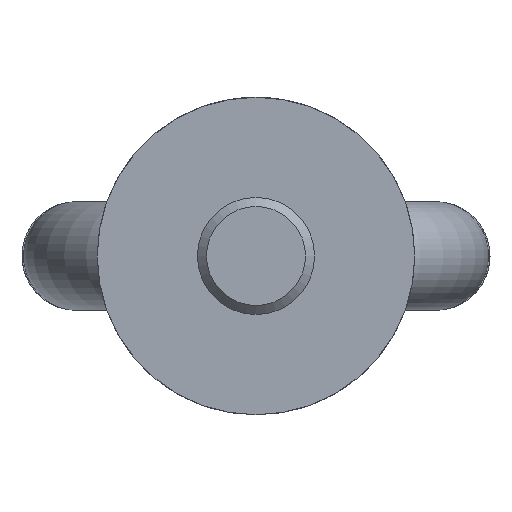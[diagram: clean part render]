
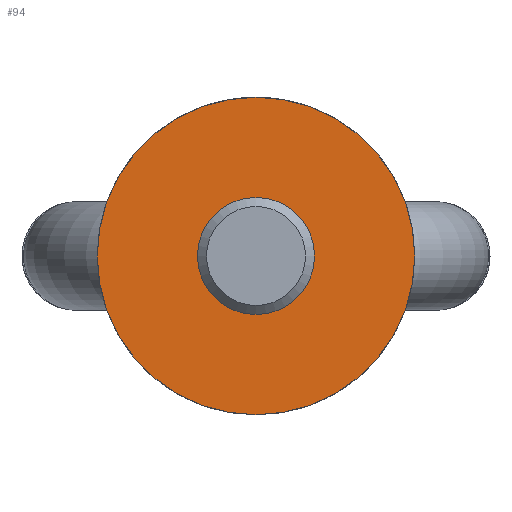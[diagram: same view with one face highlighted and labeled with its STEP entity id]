
A CAD part, front view. The second image highlights one B-rep face of the part: STEP entity #94.
In plain terms, the highlighted planar face has unit normal (0, -1, 0).
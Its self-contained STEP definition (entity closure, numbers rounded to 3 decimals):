
#94 = ADVANCED_FACE( '', ( #151, #152 ), #153, .F. );
#151 = FACE_BOUND( '', #219, .T. );
#152 = FACE_OUTER_BOUND( '', #220, .T. );
#153 = PLANE( '', #221 );
#219 = EDGE_LOOP( '', ( #373 ) );
#220 = EDGE_LOOP( '', ( #374 ) );
#221 = AXIS2_PLACEMENT_3D( '', #375, #376, #377 );
#373 = ORIENTED_EDGE( '', *, *, #456, .T. );
#374 = ORIENTED_EDGE( '', *, *, #438, .T. );
#375 = CARTESIAN_POINT( '', ( 19., 0., 0. ) );
#376 = DIRECTION( '', ( 0., 1., 0. ) );
#377 = DIRECTION( '', ( 0., 0., 1. ) );
#438 = EDGE_CURVE( '', #504, #504, #505, .T. );
#456 = EDGE_CURVE( '', #532, #532, #533, .T. );
#504 = VERTEX_POINT( '', #920 );
#505 = CIRCLE( '', #921, 19. );
#532 = VERTEX_POINT( '', #966 );
#533 = CIRCLE( '', #967, 7. );
#920 = CARTESIAN_POINT( '', ( 0., 0., -19. ) );
#921 = AXIS2_PLACEMENT_3D( '', #1012, #1013, #1014 );
#966 = CARTESIAN_POINT( '', ( 0., 0., 7. ) );
#967 = AXIS2_PLACEMENT_3D( '', #1039, #1040, #1041 );
#1012 = CARTESIAN_POINT( '', ( 0., 0., 0. ) );
#1013 = DIRECTION( '', ( 0., -1., 0. ) );
#1014 = DIRECTION( '', ( 0., 0., -1. ) );
#1039 = CARTESIAN_POINT( '', ( 0., 0., 0. ) );
#1040 = DIRECTION( '', ( 0., 1., 0. ) );
#1041 = DIRECTION( '', ( 0., 0., 1. ) );
